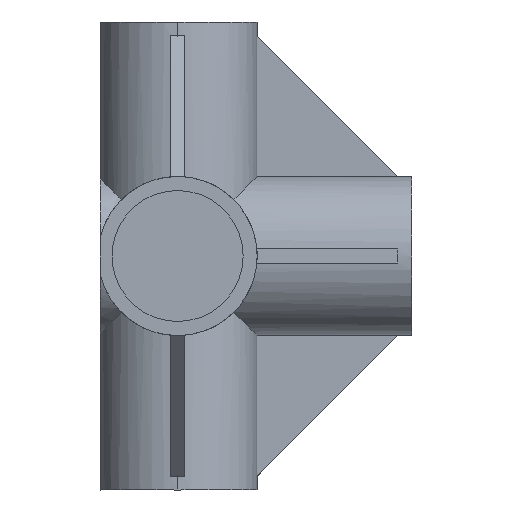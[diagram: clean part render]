
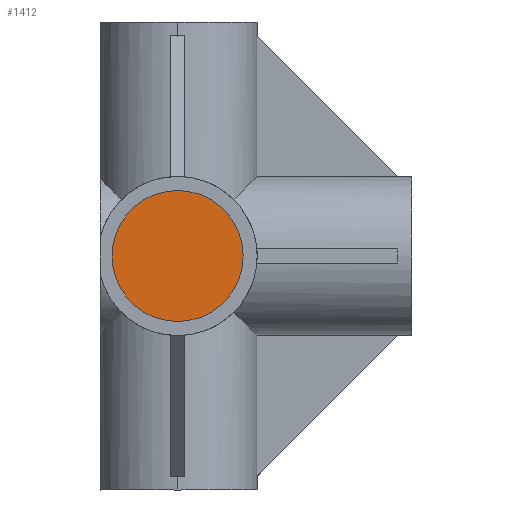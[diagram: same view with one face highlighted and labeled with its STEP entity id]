
A CAD part, left-side view. The second image highlights one B-rep face of the part: STEP entity #1412.
In plain terms, the highlighted planar face has unit normal (-1, 0, 0).
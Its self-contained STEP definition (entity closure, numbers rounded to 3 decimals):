
#21 = CIRCLE ( 'NONE', #118, 14. ) ;
#118 = AXIS2_PLACEMENT_3D ( 'NONE', #2046, #1903, #1748 ) ;
#181 = ORIENTED_EDGE ( 'NONE', *, *, #2041, .T. ) ;
#255 = FACE_OUTER_BOUND ( 'NONE', #1359, .T. ) ;
#414 = EDGE_CURVE ( 'NONE', #440, #1041, #716, .T. ) ;
#440 = VERTEX_POINT ( 'NONE', #1718 ) ;
#538 = CARTESIAN_POINT ( 'NONE',  ( -20., 0., 0. ) ) ;
#563 = CARTESIAN_POINT ( 'NONE',  ( -20., 0., -14. ) ) ;
#716 = CIRCLE ( 'NONE', #1318, 14. ) ;
#905 = CARTESIAN_POINT ( 'NONE',  ( -20., 0., 0. ) ) ;
#1041 = VERTEX_POINT ( 'NONE', #563 ) ;
#1318 = AXIS2_PLACEMENT_3D ( 'NONE', #538, #1813, #1344 ) ;
#1344 = DIRECTION ( 'NONE',  ( 0., 0., 1. ) ) ;
#1359 = EDGE_LOOP ( 'NONE', ( #1980, #181 ) ) ;
#1365 = DIRECTION ( 'NONE',  ( -1., 0., 0. ) ) ;
#1377 = PLANE ( 'NONE',  #1870 ) ;
#1412 = ADVANCED_FACE ( 'NONE', ( #255 ), #1377, .T. ) ;
#1718 = CARTESIAN_POINT ( 'NONE',  ( -20., 0., 14. ) ) ;
#1748 = DIRECTION ( 'NONE',  ( 0., 0., 1. ) ) ;
#1813 = DIRECTION ( 'NONE',  ( -1., 0., 0. ) ) ;
#1870 = AXIS2_PLACEMENT_3D ( 'NONE', #905, #1365, #2004 ) ;
#1903 = DIRECTION ( 'NONE',  ( -1., 0., 0. ) ) ;
#1980 = ORIENTED_EDGE ( 'NONE', *, *, #414, .T. ) ;
#2004 = DIRECTION ( 'NONE',  ( 0., 0., 1. ) ) ;
#2041 = EDGE_CURVE ( 'NONE', #1041, #440, #21, .T. ) ;
#2046 = CARTESIAN_POINT ( 'NONE',  ( -20., 0., 0. ) ) ;
